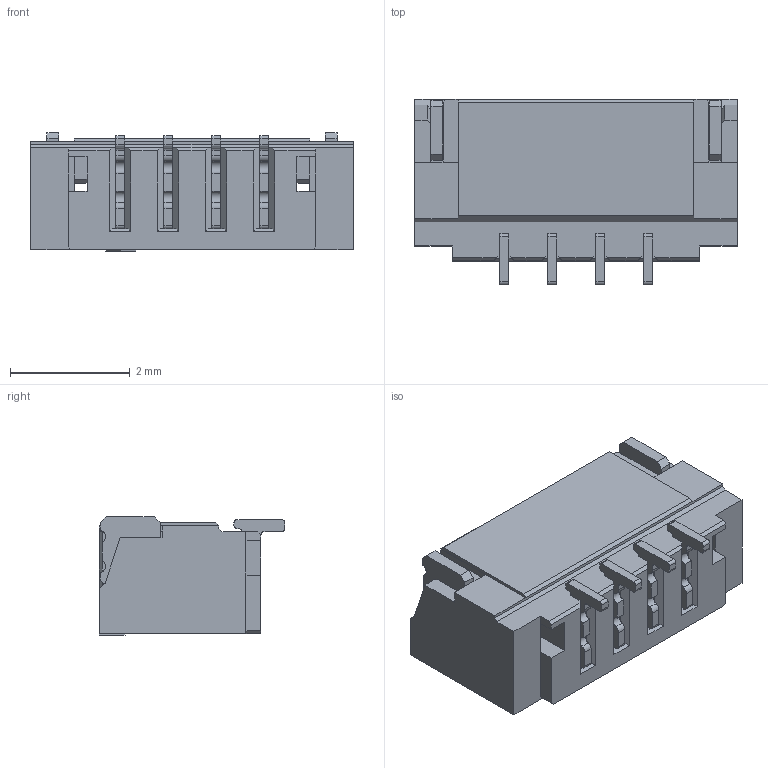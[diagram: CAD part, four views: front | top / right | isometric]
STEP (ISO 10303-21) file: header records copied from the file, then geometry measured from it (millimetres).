
FILE_DESCRIPTION((''),'2;1');
FILE_NAME('PRT0019','2012-11-16T',('12239592'),(''),'PRO/ENGINEER BY PARAMETRIC TECHNOLOGY CORPORATION, 2009360','PRO/ENGINEER BY PARAMETRIC TECHNOLOGY CORPORATION, 2009360','');
FILE_SCHEMA(('CONFIG_CONTROL_DESIGN'));
Length unit declared in the file: millimetre
Products named in the file (1): PRT0019
Bounding box: 5.38 x 3.1 x 1.98 mm (x, y, z)
Volume: 17 mm3; surface area: 102.5 mm2
Topology: 1 solids, 1 shells, 476 faces, 1540 edges, 1192 vertices
Faces by surface type: plane 352, cylinder 124
Entity records: 16546 total; most frequent: CARTESIAN_POINT 3017, ORIENTED_EDGE 2804, DIRECTION 2760, EDGE_CURVE 1402, VECTOR 1236, LINE 1236, VERTEX_POINT 916, AXIS2_PLACEMENT_3D 762
